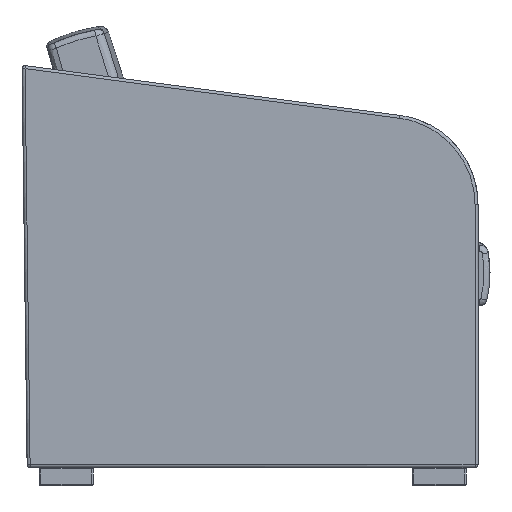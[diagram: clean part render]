
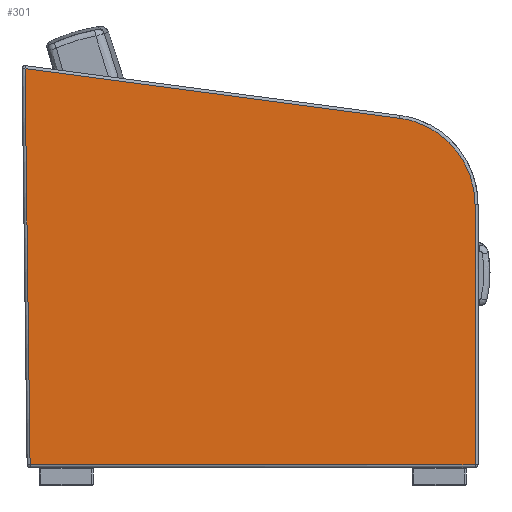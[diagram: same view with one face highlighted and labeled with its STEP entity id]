
A CAD part, left-side view. The second image highlights one B-rep face of the part: STEP entity #301.
In plain terms, the highlighted planar face has unit normal (-1, 0, 0).
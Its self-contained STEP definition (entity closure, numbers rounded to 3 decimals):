
#301=ADVANCED_FACE('',(#633),#4462,.T.);
#633=FACE_OUTER_BOUND('',#965,.T.);
#965=EDGE_LOOP('',(#2176,#2177,#2178,#2179,#2180));
#2176=ORIENTED_EDGE('',*,*,#3086,.T.);
#2177=ORIENTED_EDGE('',*,*,#3103,.T.);
#2178=ORIENTED_EDGE('',*,*,#3106,.T.);
#2179=ORIENTED_EDGE('',*,*,#3098,.T.);
#2180=ORIENTED_EDGE('',*,*,#3087,.T.);
#3086=EDGE_CURVE('',#4326,#4327,#3554,.T.);
#3087=EDGE_CURVE('',#4330,#4326,#3555,.T.);
#3098=EDGE_CURVE('',#4329,#4330,#3564,.T.);
#3103=EDGE_CURVE('',#4327,#4328,#3896,.T.);
#3106=EDGE_CURVE('',#4328,#4329,#3565,.T.);
#3554=B_SPLINE_CURVE_WITH_KNOTS('',1,(#20564,#20565),.UNSPECIFIED.,.F.,
 .F.,(2,2),(-433.432,0.),.UNSPECIFIED.);
#3555=B_SPLINE_CURVE_WITH_KNOTS('',1,(#20566,#20567),.UNSPECIFIED.,.F.,
 .F.,(2,2),(-741.564,0.),.UNSPECIFIED.);
#3564=B_SPLINE_CURVE_WITH_KNOTS('',1,(#20592,#20593),.UNSPECIFIED.,.F.,
 .F.,(2,2),(-660.054,0.),.UNSPECIFIED.);
#3565=B_SPLINE_CURVE_WITH_KNOTS('',1,(#20615,#20616),.UNSPECIFIED.,.F.,
 .F.,(2,2),(-629.593,0.),.UNSPECIFIED.);
#3896=(
BOUNDED_CURVE()
B_SPLINE_CURVE(2,(#20606,#20607,#20608),.UNSPECIFIED.,.F.,.F.)
B_SPLINE_CURVE_WITH_KNOTS((3,3),(-208.634,0.),.UNSPECIFIED.)
CURVE()
GEOMETRIC_REPRESENTATION_ITEM()
RATIONAL_B_SPLINE_CURVE((1.,0.752,1.))
REPRESENTATION_ITEM('')
);
#4326=VERTEX_POINT('',#20475);
#4327=VERTEX_POINT('',#20476);
#4328=VERTEX_POINT('',#20477);
#4329=VERTEX_POINT('',#20478);
#4330=VERTEX_POINT('',#20479);
#4462=PLANE('',#4778);
#4778=AXIS2_PLACEMENT_3D('',#19034,#4836,$);
#4836=DIRECTION('',(-1.,0.,0.));
#19034=CARTESIAN_POINT('',(-750.,-830.051,761.001));
#20475=CARTESIAN_POINT('',(-750.,-755.045,35.));
#20476=CARTESIAN_POINT('',(-750.,-755.045,468.432));
#20477=CARTESIAN_POINT('',(-750.,-629.121,612.172));
#20478=CARTESIAN_POINT('',(-750.,-5.,695.));
#20479=CARTESIAN_POINT('',(-750.,-13.482,35.));
#20564=CARTESIAN_POINT('',(-750.,-755.045,35.));
#20565=CARTESIAN_POINT('',(-750.,-755.045,468.432));
#20566=CARTESIAN_POINT('',(-750.,-13.482,35.));
#20567=CARTESIAN_POINT('',(-750.,-755.045,35.));
#20592=CARTESIAN_POINT('',(-750.,-5.,695.));
#20593=CARTESIAN_POINT('',(-750.,-13.482,35.));
#20606=CARTESIAN_POINT('',(-750.,-755.045,468.432));
#20607=CARTESIAN_POINT('',(-750.,-755.045,595.46));
#20608=CARTESIAN_POINT('',(-750.,-629.121,612.172));
#20615=CARTESIAN_POINT('',(-750.,-629.121,612.172));
#20616=CARTESIAN_POINT('',(-750.,-5.,695.));
